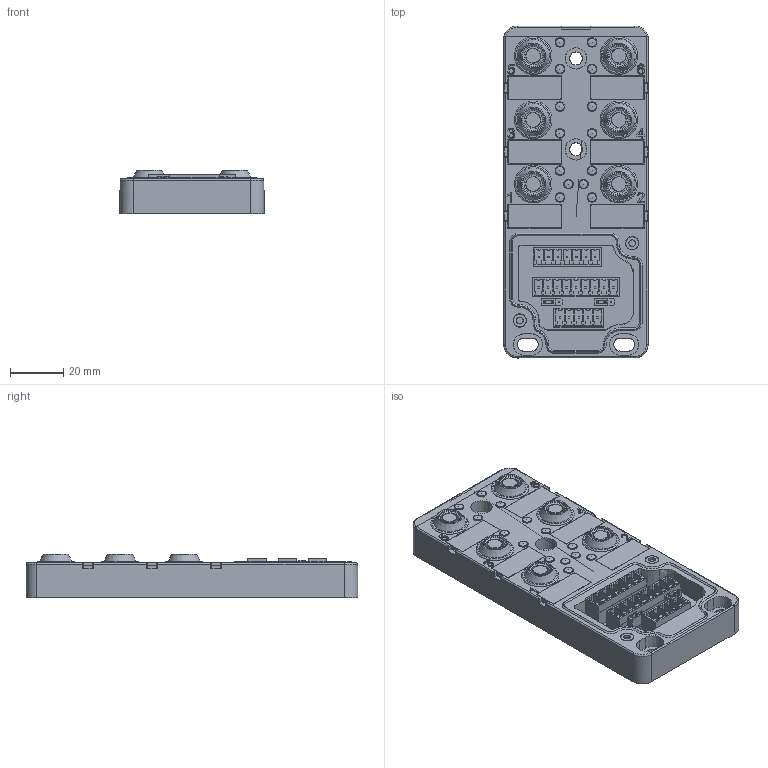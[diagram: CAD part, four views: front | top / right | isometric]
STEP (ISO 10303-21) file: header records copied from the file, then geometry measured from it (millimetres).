
FILE_DESCRIPTION((''),'2;1');
FILE_NAME('C:\Users\enrico\Desktop\Ale\Sito Web Mintec\AUTOMAZIONE_2020\FOTO & STEP Distributori passivi_ciabatte\A cablare\caibatta M8 6 vie calotta.stp','2020-07-24T10:45:53',('Tecnico2'),(''),'Autodesk Inventor 2012','Autodesk Inventor 2012','');
FILE_SCHEMA(('AUTOMOTIVE_DESIGN { 1 0 10303 214 1 1 1 1 }'));
Length unit declared in the file: millimetre
Products named in the file (8): caibatta M8 6 vie calotta; corpo calotta 6 vie; scheda con pin; targhetta; dado calotta; led; ghiera M8 ciabatte; inserto no poli
Assembly tree (36 placements, depth 2):
  caibatta M8 6 vie calotta
    corpo calotta 6 vie
    scheda con pin
    targhetta  x6
    dado calotta  x2
    led  x14
    ghiera M8 ciabatte  x6
    inserto no poli  x6
Bounding box: 54 x 124.11 x 16.2 mm (x, y, z)
Volume: 43912.8 mm3; surface area: 55815 mm2
Topology: 43 solids, 43 shells, 2407 faces, 6243 edges, 4146 vertices
Faces by surface type: plane 1513, cylinder 407, cone 283, bspline 161, torus 29, sphere 14
Full cylindrical faces by diameter (mm): 0.9 x6, 1 x20, 1.3 x21, 1.6 x12, 2.5 x2, 3.2 x3, 3.6 x28, 4.75 x2, 5 x2, 6.917 x6, 7.3 x6, 8 x1, 8.4 x12, 8.7 x6, 10.8 x6, 14 x12
Entity records: 58802 total; most frequent: CARTESIAN_POINT 14603, ORIENTED_EDGE 9184, DIRECTION 8411, EDGE_CURVE 4592, VECTOR 3275, LINE 3275, VERTEX_POINT 3133, AXIS2_PLACEMENT_3D 2568
